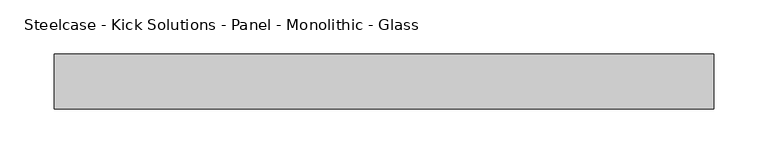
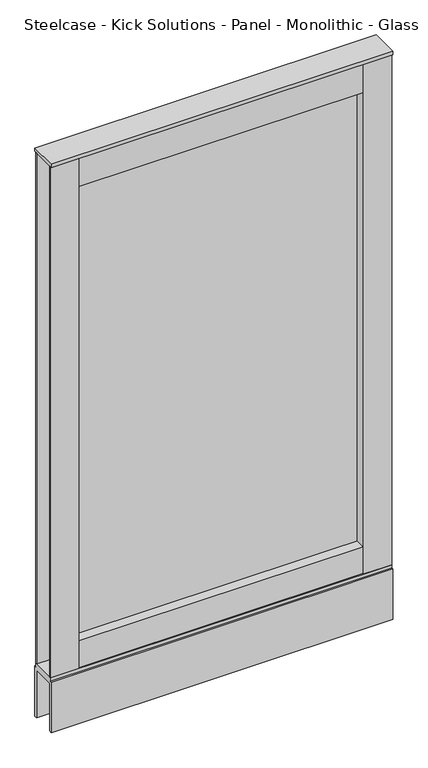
"""IFC4 building model written with IfcOpenShell, lengths in millimetres: furniture geometry, Steelcase - Kick Solutions - Panel - Monolithic - Glass : 42H x 24W."""

from ifc_helpers import new_model, si_unit, frame, origin, place, context, project, spatial, polyline, outline, extrude, source, transform, mapped, element, save


def steelcase_kick_solutions_panel_monolithic_glass_413c52b1(model_context):
    return source(origin(), model_context, "Body", "SweptSolid", [
        extrude(outline(polyline([(558.8006661, -5.08), (558.8006661, -45.7200015), (50.8006646, -45.7200015), (50.8006646, -5.08), (558.8006661, -5.08)])), frame((0.0, 0.0, 101.7169049), z_axis=(0.0, 0.0, 1.0), x_axis=(1.0, 0.0, 0.0)), (0.0, 0.0, 1.0), 50.6830951),
        extrude(outline(polyline([(558.8006661, -5.08), (558.8006661, -45.7200015), (50.8006646, -45.7200015), (50.8006646, -5.08), (558.8006661, -5.08)])), frame((0.0, 0.0, 1009.65), z_axis=(0.0, 0.0, 1.0), x_axis=(1.0, 0.0, 0.0)), (0.0, 0.0, 1.0), 57.15),
        extrude(outline(polyline([(50.8006646, -3.1743148), (50.8006646, -47.6243142), (0.0, -47.6243142), (0.0, -45.7200015), (47.7526646, -45.7200015), (47.7526646, -5.08), (0.0, -5.08), (0.0, -3.1743148), (50.8006646, -3.1743148)])), frame((0.0, 0.0, 101.7169049), z_axis=(0.0, 0.0, 1.0), x_axis=(1.0, 0.0, 0.0)), (0.0, 0.0, 1.0), 965.0830951),
        extrude(outline(polyline([(558.8006661, -3.1743148), (609.6, -3.1743148), (609.6, -5.08), (561.8486661, -5.08), (561.8486661, -45.7200015), (609.6, -45.7200015), (609.6, -47.6243142), (558.8006661, -47.6243142), (558.8006661, -3.1743148)])), frame((0.0, 0.0, 101.7169049), z_axis=(0.0, 0.0, 1.0), x_axis=(1.0, 0.0, 0.0)), (0.0, 0.0, 1.0), 965.0830951),
        extrude(outline(polyline([(558.8006661, -28.422537), (50.8006646, -28.422537), (50.8006646, -25.4), (558.8006661, -25.4), (558.8006661, -28.422537)])), frame((0.0, 0.0, 152.4), z_axis=(0.0, 0.0, 1.0), x_axis=(1.0, 0.0, 0.0)), (0.0, 0.0, 1.0), 857.25),
        extrude(outline(polyline([(609.6, 0.0), (609.6, -50.8000015), (0.0, -50.8000015), (0.0, 0.0), (609.6, 0.0)])), frame((0.0, 0.0, 1066.8), z_axis=(0.0, 0.0, 1.0), x_axis=(1.0, 0.0, 0.0)), (0.0, 0.0, 1.0), 6.35),
        extrude(outline(polyline([(0.0, 0.0), (-5.08, 0.0), (-5.08, 90.2869018), (-45.7200015, 90.2869018), (-45.7200015, 0.0), (-50.8000015, 0.0), (-50.8000015, 95.3669018), (-47.6243142, 95.3669018), (-47.6243142, 101.7169049), (-3.1743148, 101.7169049), (-3.1743148, 95.3669018), (0.0, 95.3669018), (0.0, 0.0)])), frame((0.0, 0.0, 0.0), z_axis=(1.0, 0.0, 0.0), x_axis=(0.0, 1.0, 0.0)), (0.0, 0.0, 1.0), 609.6),
    ])


if __name__ == "__main__":
    model = new_model("IFC4")
    model_context = context("Model", 3, world=origin())
    ifc_project = project(units=[si_unit("LENGTHUNIT", "METRE", prefix="MILLI")], contexts=[model_context])
    site = spatial("IfcSite", under=ifc_project)
    building = spatial("IfcBuilding", under=site)
    placement = place(None, origin())
    steelcase_kick_solutions_panel_monolithic_glass_shape = steelcase_kick_solutions_panel_monolithic_glass_413c52b1(model_context)
    element("IfcFurniture", 1, ObjectType="Steelcase - Kick Solutions - Panel - Monolithic - Glass : 42H x 24W", at=placement, inside=building, context=model_context, shape_type="MappedRepresentation", body=[
        mapped(steelcase_kick_solutions_panel_monolithic_glass_shape, transform((0.0, 0.0, 0.0), x_axis=(1.0, 0.0, 0.0), y_axis=(0.0, 1.0, 0.0), z_axis=(0.0, 0.0, 1.0))),
    ])
    save(model, "model.ifc")
